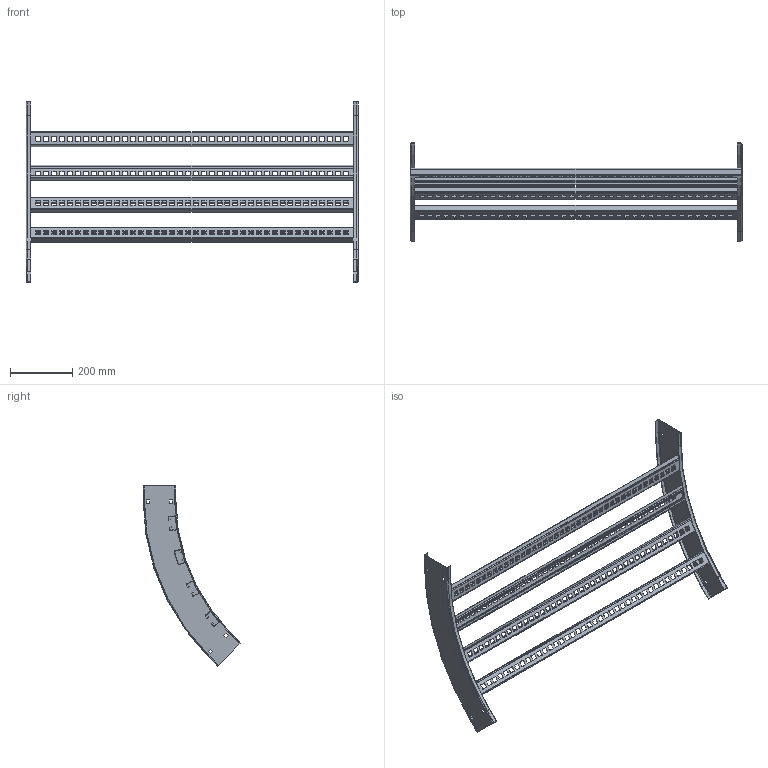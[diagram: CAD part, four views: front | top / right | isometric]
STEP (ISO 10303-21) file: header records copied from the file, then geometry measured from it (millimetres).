
FILE_DESCRIPTION((''),'2;1');
FILE_NAME('AUF442VVO4524_ASM','2010-02-01T',('erouzier'),(''),'PRO/ENGINEER BY PARAMETRIC TECHNOLOGY CORPORATION, 2008510','PRO/ENGINEER BY PARAMETRIC TECHNOLOGY CORPORATION, 2008510','');
FILE_SCHEMA(('CONFIG_CONTROL_DESIGN'));
Length unit declared in the file: inch
Products named in the file (3): CDS001416_4_45_24; CDS002159L42-P; AUF442VVO4524_ASM
Assembly tree (6 placements, depth 2):
  AUF442VVO4524_ASM
    CDS001416_4_45_24  x2
    CDS002159L42-P  x4
Bounding box: 1070.91 x 315.57 x 581.6 mm (x, y, z)
Volume: 872735.6 mm3; surface area: 1262388.9 mm2
Topology: 6 solids, 6 shells, 1516 faces, 4448 edges, 2944 vertices
Faces by surface type: plane 800, cylinder 708, torus 8
Entity records: 13760 total; most frequent: DIRECTION 2384, CARTESIAN_POINT 2373, ORIENTED_EDGE 2360, EDGE_CURVE 1180, VECTOR 810, LINE 810, AXIS2_PLACEMENT_3D 787, VERTEX_POINT 776
